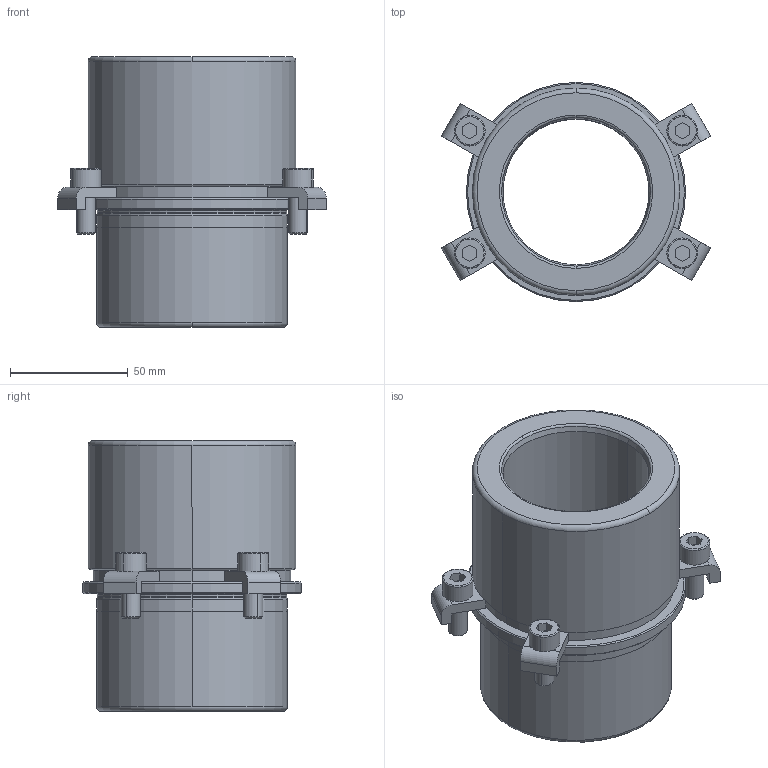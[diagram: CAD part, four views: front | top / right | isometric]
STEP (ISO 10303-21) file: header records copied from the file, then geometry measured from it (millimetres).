
FILE_DESCRIPTION((''),'2;1');
FILE_NAME('B40_050_065.stp','2009-01-05T16:41:34',(''),(''),'Mechanical Desktop 2009','Mechanical Desktop 2009',', , ');
FILE_SCHEMA(('CONFIG_CONTROL_DESIGN'));
Length unit declared in the file: millimetre
Products named in the file (2): Product; blmdl1
Assembly tree (1 placements, depth 2):
  Product
    blmdl1
Bounding box: 114.12 x 93 x 115 mm (x, y, z)
Volume: 318719.7 mm3; surface area: 69610.1 mm2
Topology: 9 solids, 9 shells, 173 faces, 422 edges, 278 vertices
Faces by surface type: plane 73, cylinder 50, cone 22, torus 16, bspline 12
Entity records: 5767 total; most frequent: CARTESIAN_POINT 1403, DIRECTION 966, ORIENTED_EDGE 844, EDGE_CURVE 422, AXIS2_PLACEMENT_3D 381, VERTEX_POINT 278, CIRCLE 218, VECTOR 204
